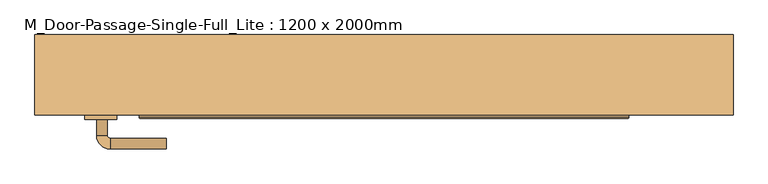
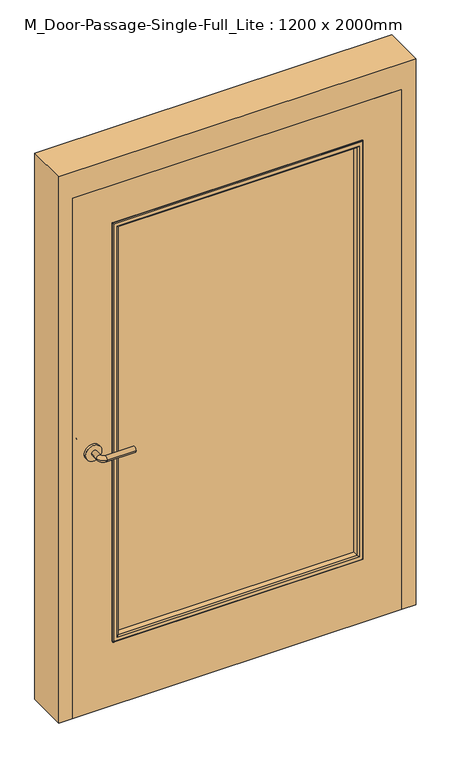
"""IFC4 building model written with IfcOpenShell, lengths in millimetres: door geometry, M_Door-Passage-Single-Full_Lite : 1200 x 2000mm."""

from ifc_helpers import new_model, si_unit, point, frame, frame_2d, origin, place, context, project, spatial, polyline, circle_curve, ellipse_curve, trimmed, segment, composite_curve, outline, extrude, faceted_brep, source, transform, mapped, element, save
from ifc_brep_helpers import plane_surface, cylinder_surface, revolved_surface, advanced_brep


def m_door_passage_single_full_lite_1200_x_2000mm_8ce647b2(model_context):
    return source(origin(), model_context, "Body", "SolidModel", [
        advanced_brep(
        [(-534.990625, -13.35, 1000.0), (-514.990625, -13.35, 1000.0), (-534.990625, 16.65, 1000.0), (-514.990625, 16.65, 1000.0), (-509.990625, 21.65, 1000.0), (-509.990625, 41.65, 1000.0), (-404.990625, 41.65, 1000.0), (-404.990625, 21.65, 1000.0)],
        [
            (0, 1, circle_curve(frame((-524.990625, -13.35, 1000.0), z_axis=(0.0, -1.0, 0.0), x_axis=(1.0, 0.0, 0.0)), 10.0)),
            (1, 0, circle_curve(frame((-524.990625, -13.35, 1000.0), z_axis=(0.0, -1.0, 0.0), x_axis=(1.0, 0.0, 0.0)), 10.0)),
            (0, 2),
            (2, 3, circle_curve(frame((-524.990625, 16.65, 1000.0), z_axis=(0.0, -1.0, 0.0), x_axis=(1.0, 0.0, 0.0)), 10.0)),
            (3, 1),
            (3, 2, circle_curve(frame((-524.990625, 16.65, 1000.0), z_axis=(0.0, -1.0, 0.0), x_axis=(1.0, 0.0, 0.0)), 10.0)),
            (4, 3, circle_curve(frame((-509.990625, 16.65, 1000.0), z_axis=(0.0, 0.0, 1.0), x_axis=(-1.0, 0.0, 0.0)), 5.0)),
            (2, 5, circle_curve(frame((-509.990625, 16.65, 1000.0), z_axis=(0.0, 0.0, -1.0), x_axis=(-1.0, 0.0, 0.0)), 25.0)),
            (5, 4, circle_curve(frame((-509.990625, 31.65, 1000.0), z_axis=(-1.0, 0.0, 0.0), x_axis=(0.0, -1.0, 0.0)), 10.0)),
            (4, 5, circle_curve(frame((-509.990625, 31.65, 1000.0), z_axis=(-1.0, 0.0, 0.0), x_axis=(0.0, -1.0, 0.0)), 10.0)),
            (6, 7, circle_curve(frame((-404.990625, 31.65, 1000.0), z_axis=(1.0, 0.0, 0.0), x_axis=(0.0, -1.0, 0.0)), 10.0)),
            (7, 6, circle_curve(frame((-404.990625, 31.65, 1000.0), z_axis=(1.0, 0.0, 0.0), x_axis=(0.0, -1.0, 0.0)), 10.0)),
            (5, 6),
            (7, 4),
        ],
        [
            plane_surface(frame((-524.990625, -13.35, 1000.0), z_axis=(0.0, -1.0, 0.0), x_axis=(0.0, 0.0, 1.0))),
            cylinder_surface(frame((-524.990625, -13.35, 1000.0), z_axis=(0.0, -1.0, 0.0), x_axis=(1.0, 0.0, 0.0)), 10.0),
            revolved_surface(trimmed(ellipse_curve(frame((-524.990625, 16.65, 1000.0), z_axis=(0.0, -1.0, 0.0), x_axis=(1.0, 0.0, 0.0)), 10.0, 10.0), [point((-534.990625, 16.65, 1000.0))], [point((-514.990625, 16.65, 1000.0))], True, "CARTESIAN"), (-509.990625, 16.65, 1000.0), (0.0, 0.0, -1.0)),
            revolved_surface(trimmed(ellipse_curve(frame((-524.990625, 16.65, 1000.0), z_axis=(0.0, -1.0, 0.0), x_axis=(1.0, 0.0, 0.0)), 10.0, 10.0), [point((-514.990625, 16.65, 1000.0))], [point((-534.990625, 16.65, 1000.0))], True, "CARTESIAN"), (-509.990625, 16.65, 1000.0), (0.0, 0.0, -1.0)),
            plane_surface(frame((-404.990625, 31.65, 1000.0), z_axis=(1.0, 0.0, 0.0), x_axis=(0.0, 0.0, 1.0))),
            cylinder_surface(frame((-509.990625, 31.65, 1000.0), z_axis=(-1.0, 0.0, 0.0), x_axis=(0.0, -1.0, 0.0)), 10.0),
        ],
        [
            (0, [[1, 2]]),
            (1, [[-1, 3, 4, 5]]),
            (1, [[-2, -5, 6, -3]]),
            (2, [[7, -4, 8, 9]]),
            (3, [[-8, -6, -7, 10]]),
            (4, [[11, 12]]),
            (5, [[-9, 13, -12, 14]]),
            (5, [[-10, -14, -11, -13]]),
        ],
    ),
        extrude(outline(composite_curve([segment(trimmed(circle_curve(frame_2d((1000.0, -527.490625)), 30.0), [point((1000.0, -557.490625))], [point((1000.0, -497.490625))], False, "CARTESIAN"), True, "CONTINUOUS"), segment(trimmed(circle_curve(frame_2d((1000.0, -527.490625)), 30.0), [point((1000.0, -497.490625))], [point((1000.0, -557.490625))], False, "CARTESIAN"), True, "CONTINUOUS")], self_intersect=False)), frame((0.0, -21.35, 0.0), z_axis=(0.0, 1.0, 0.0), x_axis=(0.0, 0.0, 1.0)), (0.0, 0.0, 1.0), 8.0),
        advanced_brep(
        [(-534.990625, -74.35, 1000.0), (-514.990625, -74.35, 1000.0), (-514.990625, -104.35, 1000.0), (-534.990625, -104.35, 1000.0), (-509.990625, -109.35, 1000.0), (-509.990625, -129.35, 1000.0), (-404.990625, -129.35, 1000.0), (-404.990625, -109.35, 1000.0)],
        [
            (0, 1, circle_curve(frame((-524.990625, -74.35, 1000.0), z_axis=(0.0, 1.0, 0.0), x_axis=(1.0, 0.0, 0.0)), 10.0)),
            (1, 0, circle_curve(frame((-524.990625, -74.35, 1000.0), z_axis=(0.0, 1.0, 0.0), x_axis=(1.0, 0.0, 0.0)), 10.0)),
            (1, 2),
            (2, 3, circle_curve(frame((-524.990625, -104.35, 1000.0), z_axis=(0.0, 1.0, 0.0), x_axis=(1.0, 0.0, 0.0)), 10.0)),
            (3, 0),
            (3, 2, circle_curve(frame((-524.990625, -104.35, 1000.0), z_axis=(0.0, 1.0, 0.0), x_axis=(1.0, 0.0, 0.0)), 10.0)),
            (4, 5, circle_curve(frame((-509.990625, -119.35, 1000.0), z_axis=(-1.0, 0.0, 0.0), x_axis=(0.0, 1.0, 0.0)), 10.0)),
            (5, 3, circle_curve(frame((-509.990625, -104.35, 1000.0), z_axis=(0.0, 0.0, -1.0), x_axis=(-1.0, 0.0, 0.0)), 25.0)),
            (2, 4, circle_curve(frame((-509.990625, -104.35, 1000.0), z_axis=(0.0, 0.0, 1.0), x_axis=(-1.0, 0.0, 0.0)), 5.0)),
            (5, 4, circle_curve(frame((-509.990625, -119.35, 1000.0), z_axis=(-1.0, 0.0, 0.0), x_axis=(0.0, 1.0, 0.0)), 10.0)),
            (6, 7, circle_curve(frame((-404.990625, -119.35, 1000.0), z_axis=(1.0, 0.0, 0.0), x_axis=(0.0, 1.0, 0.0)), 10.0)),
            (7, 6, circle_curve(frame((-404.990625, -119.35, 1000.0), z_axis=(1.0, 0.0, 0.0), x_axis=(0.0, 1.0, 0.0)), 10.0)),
            (4, 7),
            (6, 5),
        ],
        [
            plane_surface(frame((-524.990625, -74.35, 1000.0), z_axis=(0.0, 1.0, 0.0), x_axis=(0.0, 0.0, 1.0))),
            cylinder_surface(frame((-524.990625, -74.35, 1000.0), z_axis=(0.0, 1.0, 0.0), x_axis=(1.0, 0.0, 0.0)), 10.0),
            revolved_surface(trimmed(ellipse_curve(frame((-524.990625, -104.35, 1000.0), z_axis=(0.0, -1.0, 0.0), x_axis=(1.0, 0.0, 0.0)), 10.0, 10.0), [point((-534.990625, -104.35, 1000.0))], [point((-514.990625, -104.35, 1000.0))], True, "CARTESIAN"), (-509.990625, -104.35, 1000.0), (0.0, 0.0, -1.0)),
            revolved_surface(trimmed(ellipse_curve(frame((-524.990625, -104.35, 1000.0), z_axis=(0.0, -1.0, 0.0), x_axis=(1.0, 0.0, 0.0)), 10.0, 10.0), [point((-514.990625, -104.35, 1000.0))], [point((-534.990625, -104.35, 1000.0))], True, "CARTESIAN"), (-509.990625, -104.35, 1000.0), (0.0, 0.0, -1.0)),
            plane_surface(frame((-404.990625, -119.35, 1000.0), z_axis=(1.0, 0.0, 0.0), x_axis=(0.0, 0.0, 1.0))),
            cylinder_surface(frame((-509.990625, -119.35, 1000.0), z_axis=(-1.0, 0.0, 0.0), x_axis=(0.0, 1.0, 0.0)), 10.0),
        ],
        [
            (0, [[1, 2]]),
            (1, [[3, 4, 5, -2]]),
            (1, [[-5, 6, -3, -1]]),
            (2, [[7, 8, -4, 9]]),
            (3, [[10, -9, -6, -8]]),
            (4, [[11, 12]]),
            (5, [[13, -11, 14, -7]]),
            (5, [[-14, -12, -13, -10]]),
        ],
    ),
        extrude(outline(composite_curve([segment(trimmed(circle_curve(frame_2d((1000.0, -527.490625)), 30.0), [point((1000.0, -557.490625))], [point((1000.0, -497.490625))], False, "CARTESIAN"), True, "CONTINUOUS"), segment(trimmed(circle_curve(frame_2d((1000.0, -527.490625)), 30.0), [point((1000.0, -497.490625))], [point((1000.0, -557.490625))], False, "CARTESIAN"), True, "CONTINUOUS")], self_intersect=False)), frame((0.0, -74.35, 0.0), z_axis=(0.0, 1.0, 0.0), x_axis=(0.0, 0.0, 1.0)), (0.0, 0.0, 1.0), 8.0),
        extrude(outline(polyline([(447.6, -41.35), (447.6, -46.35), (-447.6, -46.35), (-447.6, -41.35), (447.6, -41.35)])), frame((0.0, 0.0, 254.0), z_axis=(0.0, 0.0, 1.0), x_axis=(1.0, 0.0, 0.0)), (0.0, 0.0, 1.0), 1593.6),
        faceted_brep([(600.0, -16.5875, 0.0), (584.125, -16.5875, 0.0), (584.125, 34.4375, 0.0), (600.0, 34.4375, 0.0), (600.0, 83.65, 0.0), (650.0, 83.65, 0.0), (650.0, -66.35, 0.0), (600.0, -66.35, 0.0), (600.0, -66.35, 2000.0), (600.0, -16.5875, 2000.0), (650.0, -66.35, 2100.0), (-650.0, -66.35, 2100.0), (-650.0, -66.35, 0.0), (-600.0, -66.35, 0.0), (-600.0, -66.35, 2000.0), (650.0, 83.65, 2100.0), (600.0, 83.65, 2000.0), (-600.0, 83.65, 2000.0), (-600.0, 83.65, 0.0), (-650.0, 83.65, 0.0), (-650.0, 83.65, 2100.0), (600.0, 34.4375, 2000.0), (584.125, 34.4375, 1984.125), (-584.125, 34.4375, 1984.125), (-584.125, 34.4375, 0.0), (-600.0, 34.4375, 0.0), (-600.0, 34.4375, 2000.0), (584.125, -16.5875, 1984.125), (-600.0, -16.5875, 2000.0), (-600.0, -16.5875, 0.0), (-584.125, -16.5875, 0.0), (-584.125, -16.5875, 1984.125)], [[[0, 1, 2, 3, 4, 5, 6, 7]], [[7, 8, 9, 0]], [[6, 10, 11, 12, 13, 14, 8, 7]], [[5, 15, 10, 6]], [[4, 16, 17, 18, 19, 20, 15, 5]], [[3, 21, 16, 4]], [[2, 22, 23, 24, 25, 26, 21, 3]], [[1, 27, 22, 2]], [[0, 9, 28, 29, 30, 31, 27, 1]], [[8, 14, 28, 9]], [[16, 21, 26, 17]], [[22, 27, 31, 23]], [[12, 19, 18, 25, 24, 30, 29, 13]], [[13, 29, 28, 14]], [[11, 20, 19, 12]], [[17, 26, 25, 18]], [[23, 31, 30, 24]], [[15, 20, 11, 10]]]),
        extrude(outline(polyline([(2000.0, -600.0), (0.0, -600.0), (0.0, 600.0), (2000.0, 600.0), (2000.0, -600.0)]), holes=[polyline([(1847.6, -447.6), (1847.6, 447.6), (254.0, 447.6), (254.0, -447.6), (1847.6, -447.6)])]), frame((0.0, -66.35, 0.0), z_axis=(0.0, 1.0, 0.0), x_axis=(0.0, 0.0, 1.0)), (0.0, 0.0, 1.0), 45.0),
        advanced_brep(
        [(-447.6, -46.35, 1847.6), (-447.6, -46.35, 254.0), (-447.6, -66.35, 254.0), (-447.6, -66.35, 1847.6), (-435.6, -67.35, 1835.6), (-435.6, -67.35, 266.0), (-435.6, -46.35, 266.0), (-435.6, -46.35, 1835.6), (-440.6, -72.35, 1840.6), (-440.6, -72.35, 261.0), (-455.6, -70.35, 1855.6), (-455.6, -70.35, 246.0), (-453.6, -72.35, 248.0), (-453.6, -72.35, 1853.6), (-455.6, -66.35, 1855.6), (-455.6, -66.35, 246.0), (447.6, -46.35, 254.0), (447.6, -66.35, 254.0), (435.6, -67.35, 266.0), (435.6, -46.35, 266.0), (440.6, -72.35, 261.0), (455.6, -70.35, 246.0), (453.6, -72.35, 248.0), (455.6, -66.35, 246.0), (447.6, -46.35, 1847.6), (447.6, -66.35, 1847.6), (435.6, -67.35, 1835.6), (435.6, -46.35, 1835.6), (440.6, -72.35, 1840.6), (455.6, -70.35, 1855.6), (453.6, -72.35, 1853.6), (455.6, -66.35, 1855.6)],
        [
            (0, 1),
            (1, 2),
            (2, 3),
            (3, 0),
            (4, 5),
            (5, 6),
            (6, 7),
            (7, 4),
            (8, 9),
            (9, 5, ellipse_curve(frame((-440.6, -67.35, 261.0), z_axis=(-0.7071067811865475, 0.0, 0.7071067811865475), x_axis=(0.7071067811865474, 0.0, 0.7071067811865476)), 7.0710678, 5.0)),
            (4, 8, ellipse_curve(frame((-440.6, -67.35, 1840.6), z_axis=(-0.7071067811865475, 0.0, -0.7071067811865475), x_axis=(-0.7071067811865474, 0.0, 0.7071067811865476)), 7.0710678, 5.0)),
            (10, 11),
            (11, 12, ellipse_curve(frame((-453.6, -70.35, 248.0), z_axis=(-0.7071067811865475, 0.0, 0.7071067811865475), x_axis=(0.7071067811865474, 0.0, 0.7071067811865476)), 2.8284271, 2.0)),
            (12, 13),
            (13, 10, ellipse_curve(frame((-453.6, -70.35, 1853.6), z_axis=(-0.7071067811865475, 0.0, -0.7071067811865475), x_axis=(-0.7071067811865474, 0.0, 0.7071067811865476)), 2.8284271, 2.0)),
            (14, 15),
            (15, 11),
            (10, 14),
            (1, 16),
            (16, 17),
            (17, 2),
            (5, 18),
            (18, 19),
            (19, 6),
            (9, 20),
            (20, 18, ellipse_curve(frame((440.6, -67.35, 261.0), z_axis=(-0.7071067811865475, 0.0, -0.7071067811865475), x_axis=(-0.7071067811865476, 0.0, 0.7071067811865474)), 7.0710678, 5.0)),
            (11, 21),
            (21, 22, ellipse_curve(frame((453.6, -70.35, 248.0), z_axis=(-0.7071067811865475, 0.0, -0.7071067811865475), x_axis=(-0.7071067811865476, 0.0, 0.7071067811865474)), 2.8284271, 2.0)),
            (22, 12),
            (15, 23),
            (23, 21),
            (16, 24),
            (24, 25),
            (25, 17),
            (18, 26),
            (26, 27),
            (27, 19),
            (20, 28),
            (28, 26, ellipse_curve(frame((440.6, -67.35, 1840.6), z_axis=(0.7071067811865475, 0.0, -0.7071067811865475), x_axis=(-0.7071067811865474, 0.0, -0.7071067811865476)), 7.0710678, 5.0)),
            (21, 29),
            (29, 30, ellipse_curve(frame((453.6, -70.35, 1853.6), z_axis=(0.7071067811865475, 0.0, -0.7071067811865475), x_axis=(-0.7071067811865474, 0.0, -0.7071067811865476)), 2.8284271, 2.0)),
            (30, 22),
            (23, 31),
            (31, 29),
            (14, 31),
            (25, 3),
            (24, 0),
            (27, 7),
            (26, 4),
            (28, 8),
            (30, 13),
            (29, 10),
        ],
        [
            plane_surface(frame((-447.6, -66.35, 1847.6), z_axis=(-1.0, 0.0, 0.0), x_axis=(0.0, 0.0, -1.0))),
            plane_surface(frame((-435.6, -46.35, 1835.6), z_axis=(1.0, 0.0, 0.0), x_axis=(0.0, 0.0, -1.0))),
            cylinder_surface(frame((-440.6, -67.35, 1847.6), z_axis=(0.0, 0.0, 1.0), x_axis=(-1.0, 0.0, 0.0)), 5.0),
            cylinder_surface(frame((-453.6, -70.35, 1847.6), z_axis=(0.0, 0.0, 1.0), x_axis=(-1.0, 0.0, 0.0)), 2.0),
            plane_surface(frame((-455.6, -70.35, 1855.6), z_axis=(-1.0, 0.0, 0.0), x_axis=(0.0, 0.0, -1.0))),
            plane_surface(frame((-447.6, -66.35, 254.0), z_axis=(0.0, 0.0, -1.0), x_axis=(1.0, 0.0, 0.0))),
            plane_surface(frame((-435.6, -46.35, 266.0), z_axis=(0.0, 0.0, 1.0), x_axis=(1.0, 0.0, 0.0))),
            cylinder_surface(frame((-447.6, -67.35, 261.0), z_axis=(-1.0, 0.0, 0.0), x_axis=(0.0, 0.0, -1.0)), 5.0),
            cylinder_surface(frame((-447.6, -70.35, 248.0), z_axis=(-1.0, 0.0, 0.0), x_axis=(0.0, 0.0, -1.0)), 2.0),
            plane_surface(frame((-455.6, -70.35, 246.0), z_axis=(0.0, 0.0, -1.0), x_axis=(1.0, 0.0, 0.0))),
            plane_surface(frame((447.6, -66.35, 254.0), z_axis=(1.0, 0.0, 0.0), x_axis=(0.0, 0.0, 1.0))),
            plane_surface(frame((435.6, -46.35, 266.0), z_axis=(-1.0, 0.0, 0.0), x_axis=(0.0, 0.0, 1.0))),
            cylinder_surface(frame((440.6, -67.35, 254.0), z_axis=(0.0, 0.0, -1.0), x_axis=(1.0, 0.0, 0.0)), 5.0),
            cylinder_surface(frame((453.6, -70.35, 254.0), z_axis=(0.0, 0.0, -1.0), x_axis=(1.0, 0.0, 0.0)), 2.0),
            plane_surface(frame((455.6, -70.35, 246.0), z_axis=(1.0, 0.0, 0.0), x_axis=(0.0, 0.0, 1.0))),
            plane_surface(frame((455.6, -66.35, 1855.6), z_axis=(0.0, 1.0, 0.0), x_axis=(-1.0, 0.0, 0.0))),
            plane_surface(frame((447.6, -66.35, 1847.6), z_axis=(0.0, 0.0, 1.0), x_axis=(-1.0, 0.0, 0.0))),
            plane_surface(frame((447.6, -46.35, 1847.6), z_axis=(0.0, 1.0, 0.0), x_axis=(-1.0, 0.0, 0.0))),
            plane_surface(frame((435.6, -46.35, 1835.6), z_axis=(0.0, 0.0, -1.0), x_axis=(-1.0, 0.0, 0.0))),
            cylinder_surface(frame((447.6, -67.35, 1840.6), z_axis=(1.0, 0.0, 0.0), x_axis=(0.0, 0.0, 1.0)), 5.0),
            plane_surface(frame((440.6, -72.35, 1840.6), z_axis=(0.0, -1.0, 0.0), x_axis=(-1.0, 0.0, 0.0))),
            cylinder_surface(frame((447.6, -70.35, 1853.6), z_axis=(1.0, 0.0, 0.0), x_axis=(0.0, 0.0, 1.0)), 2.0),
            plane_surface(frame((455.6, -70.35, 1855.6), z_axis=(0.0, 0.0, 1.0), x_axis=(-1.0, 0.0, 0.0))),
        ],
        [
            (0, [[1, 2, 3, 4]]),
            (1, [[5, 6, 7, 8]]),
            (2, [[9, 10, -5, 11]]),
            (3, [[12, 13, 14, 15]]),
            (4, [[16, 17, -12, 18]]),
            (5, [[19, 20, 21, -2]]),
            (6, [[22, 23, 24, -6]]),
            (7, [[25, 26, -22, -10]]),
            (8, [[27, 28, 29, -13]]),
            (9, [[30, 31, -27, -17]]),
            (10, [[32, 33, 34, -20]]),
            (11, [[35, 36, 37, -23]]),
            (12, [[38, 39, -35, -26]]),
            (13, [[40, 41, 42, -28]]),
            (14, [[43, 44, -40, -31]]),
            (15, [[-16, 45, -43, -30], [-3, -21, -34, 46]]),
            (16, [[47, -4, -46, -33]]),
            (17, [[-1, -47, -32, -19], [-7, -24, -37, 48]]),
            (18, [[49, -8, -48, -36]]),
            (19, [[50, -11, -49, -39]]),
            (20, [[-14, -29, -42, 51], [-9, -50, -38, -25]]),
            (21, [[52, -15, -51, -41]]),
            (22, [[-45, -18, -52, -44]]),
        ],
    ),
        advanced_brep(
        [(-447.6, -41.35, 254.0), (-447.6, -41.35, 1847.6), (-447.6, -21.35, 1847.6), (-447.6, -21.35, 254.0), (-435.6, -20.35, 266.0), (-435.6, -20.35, 1835.6), (-435.6, -41.35, 1835.6), (-435.6, -41.35, 266.0), (-440.6, -15.35, 261.0), (-440.6, -15.35, 1840.6), (-455.6, -17.35, 246.0), (-455.6, -17.35, 1855.6), (-453.6, -15.35, 1853.6), (-453.6, -15.35, 248.0), (-455.6, -21.35, 246.0), (-455.6, -21.35, 1855.6), (447.6, -41.35, 1847.6), (447.6, -21.35, 1847.6), (435.6, -20.35, 1835.6), (435.6, -41.35, 1835.6), (440.6, -15.35, 1840.6), (455.6, -17.35, 1855.6), (453.6, -15.35, 1853.6), (455.6, -21.35, 1855.6), (447.6, -41.35, 254.0), (447.6, -21.35, 254.0), (435.6, -20.35, 266.0), (435.6, -41.35, 266.0), (440.6, -15.35, 261.0), (455.6, -17.35, 246.0), (453.6, -15.35, 248.0), (455.6, -21.35, 246.0)],
        [
            (0, 1),
            (1, 2),
            (2, 3),
            (3, 0),
            (4, 5),
            (5, 6),
            (6, 7),
            (7, 4),
            (8, 9),
            (9, 5, ellipse_curve(frame((-440.6, -20.35, 1840.6), z_axis=(-0.7071067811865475, 0.0, -0.7071067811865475), x_axis=(0.7071067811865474, 0.0, -0.7071067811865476)), 7.0710678, 5.0)),
            (4, 8, ellipse_curve(frame((-440.6, -20.35, 261.0), z_axis=(-0.7071067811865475, 0.0, 0.7071067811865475), x_axis=(-0.7071067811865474, 0.0, -0.7071067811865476)), 7.0710678, 5.0)),
            (10, 11),
            (11, 12, ellipse_curve(frame((-453.6, -17.35, 1853.6), z_axis=(-0.7071067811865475, 0.0, -0.7071067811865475), x_axis=(0.7071067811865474, 0.0, -0.7071067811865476)), 2.8284271, 2.0)),
            (12, 13),
            (13, 10, ellipse_curve(frame((-453.6, -17.35, 248.0), z_axis=(-0.7071067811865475, 0.0, 0.7071067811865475), x_axis=(-0.7071067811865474, 0.0, -0.7071067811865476)), 2.8284271, 2.0)),
            (14, 15),
            (15, 11),
            (10, 14),
            (1, 16),
            (16, 17),
            (17, 2),
            (5, 18),
            (18, 19),
            (19, 6),
            (9, 20),
            (20, 18, ellipse_curve(frame((440.6, -20.35, 1840.6), z_axis=(-0.7071067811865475, 0.0, 0.7071067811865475), x_axis=(-0.7071067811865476, 0.0, -0.7071067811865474)), 7.0710678, 5.0)),
            (11, 21),
            (21, 22, ellipse_curve(frame((453.6, -17.35, 1853.6), z_axis=(-0.7071067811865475, 0.0, 0.7071067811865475), x_axis=(-0.7071067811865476, 0.0, -0.7071067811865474)), 2.8284271, 2.0)),
            (22, 12),
            (15, 23),
            (23, 21),
            (16, 24),
            (24, 25),
            (25, 17),
            (18, 26),
            (26, 27),
            (27, 19),
            (20, 28),
            (28, 26, ellipse_curve(frame((440.6, -20.35, 261.0), z_axis=(0.7071067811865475, 0.0, 0.7071067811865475), x_axis=(-0.7071067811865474, 0.0, 0.7071067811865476)), 7.0710678, 5.0)),
            (21, 29),
            (29, 30, ellipse_curve(frame((453.6, -17.35, 248.0), z_axis=(0.7071067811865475, 0.0, 0.7071067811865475), x_axis=(-0.7071067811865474, 0.0, 0.7071067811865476)), 2.8284271, 2.0)),
            (30, 22),
            (23, 31),
            (31, 29),
            (14, 31),
            (25, 3),
            (24, 0),
            (27, 7),
            (26, 4),
            (28, 8),
            (30, 13),
            (29, 10),
        ],
        [
            plane_surface(frame((-447.6, -21.35, 254.0), z_axis=(-1.0, 0.0, 0.0), x_axis=(0.0, 0.0, 1.0))),
            plane_surface(frame((-435.6, -41.35, 266.0), z_axis=(1.0, 0.0, 0.0), x_axis=(0.0, 0.0, 1.0))),
            cylinder_surface(frame((-440.6, -20.35, 254.0), z_axis=(0.0, 0.0, -1.0), x_axis=(-1.0, 0.0, 0.0)), 5.0),
            cylinder_surface(frame((-453.6, -17.35, 254.0), z_axis=(0.0, 0.0, -1.0), x_axis=(-1.0, 0.0, 0.0)), 2.0),
            plane_surface(frame((-455.6, -17.35, 246.0), z_axis=(-1.0, 0.0, 0.0), x_axis=(0.0, 0.0, 1.0))),
            plane_surface(frame((-447.6, -21.35, 1847.6), z_axis=(0.0, 0.0, 1.0), x_axis=(1.0, 0.0, 0.0))),
            plane_surface(frame((-435.6, -41.35, 1835.6), z_axis=(0.0, 0.0, -1.0), x_axis=(1.0, 0.0, 0.0))),
            cylinder_surface(frame((-447.6, -20.35, 1840.6), z_axis=(-1.0, 0.0, 0.0), x_axis=(0.0, 0.0, 1.0)), 5.0),
            cylinder_surface(frame((-447.6, -17.35, 1853.6), z_axis=(-1.0, 0.0, 0.0), x_axis=(0.0, 0.0, 1.0)), 2.0),
            plane_surface(frame((-455.6, -17.35, 1855.6), z_axis=(0.0, 0.0, 1.0), x_axis=(1.0, 0.0, 0.0))),
            plane_surface(frame((447.6, -21.35, 1847.6), z_axis=(1.0, 0.0, 0.0), x_axis=(0.0, 0.0, -1.0))),
            plane_surface(frame((435.6, -41.35, 1835.6), z_axis=(-1.0, 0.0, 0.0), x_axis=(0.0, 0.0, -1.0))),
            cylinder_surface(frame((440.6, -20.35, 1847.6), z_axis=(0.0, 0.0, 1.0), x_axis=(1.0, 0.0, 0.0)), 5.0),
            cylinder_surface(frame((453.6, -17.35, 1847.6), z_axis=(0.0, 0.0, 1.0), x_axis=(1.0, 0.0, 0.0)), 2.0),
            plane_surface(frame((455.6, -17.35, 1855.6), z_axis=(1.0, 0.0, 0.0), x_axis=(0.0, 0.0, -1.0))),
            plane_surface(frame((455.6, -21.35, 246.0), z_axis=(0.0, -1.0, 0.0), x_axis=(-1.0, 0.0, 0.0))),
            plane_surface(frame((447.6, -21.35, 254.0), z_axis=(0.0, 0.0, -1.0), x_axis=(-1.0, 0.0, 0.0))),
            plane_surface(frame((447.6, -41.35, 254.0), z_axis=(0.0, -1.0, 0.0), x_axis=(-1.0, 0.0, 0.0))),
            plane_surface(frame((435.6, -41.35, 266.0), z_axis=(0.0, 0.0, 1.0), x_axis=(-1.0, 0.0, 0.0))),
            cylinder_surface(frame((447.6, -20.35, 261.0), z_axis=(1.0, 0.0, 0.0), x_axis=(0.0, 0.0, -1.0)), 5.0),
            plane_surface(frame((440.6, -15.35, 261.0), z_axis=(0.0, 1.0, 0.0), x_axis=(-1.0, 0.0, 0.0))),
            cylinder_surface(frame((447.6, -17.35, 248.0), z_axis=(1.0, 0.0, 0.0), x_axis=(0.0, 0.0, -1.0)), 2.0),
            plane_surface(frame((455.6, -17.35, 246.0), z_axis=(0.0, 0.0, -1.0), x_axis=(-1.0, 0.0, 0.0))),
        ],
        [
            (0, [[1, 2, 3, 4]]),
            (1, [[5, 6, 7, 8]]),
            (2, [[9, 10, -5, 11]]),
            (3, [[12, 13, 14, 15]]),
            (4, [[16, 17, -12, 18]]),
            (5, [[19, 20, 21, -2]]),
            (6, [[22, 23, 24, -6]]),
            (7, [[25, 26, -22, -10]]),
            (8, [[27, 28, 29, -13]]),
            (9, [[30, 31, -27, -17]]),
            (10, [[32, 33, 34, -20]]),
            (11, [[35, 36, 37, -23]]),
            (12, [[38, 39, -35, -26]]),
            (13, [[40, 41, 42, -28]]),
            (14, [[43, 44, -40, -31]]),
            (15, [[-16, 45, -43, -30], [-3, -21, -34, 46]]),
            (16, [[47, -4, -46, -33]]),
            (17, [[-1, -47, -32, -19], [-7, -24, -37, 48]]),
            (18, [[49, -8, -48, -36]]),
            (19, [[50, -11, -49, -39]]),
            (20, [[-14, -29, -42, 51], [-9, -50, -38, -25]]),
            (21, [[52, -15, -51, -41]]),
            (22, [[-45, -18, -52, -44]]),
        ],
    ),
    ])


if __name__ == "__main__":
    model = new_model("IFC4")
    model_context = context("Model", 3, world=origin())
    ifc_project = project(units=[si_unit("LENGTHUNIT", "METRE", prefix="MILLI")], contexts=[model_context])
    site = spatial("IfcSite", under=ifc_project)
    building = spatial("IfcBuilding", under=site)
    placement = place(None, origin())
    m_door_passage_single_full_lite_1200_x_2000mm_shape = m_door_passage_single_full_lite_1200_x_2000mm_8ce647b2(model_context)
    element("IfcDoor", 1, ObjectType="M_Door-Passage-Single-Full_Lite : 1200 x 2000mm", at=placement, inside=building, context=model_context, shape_type="MappedRepresentation", body=[
        mapped(m_door_passage_single_full_lite_1200_x_2000mm_shape, transform((0.0, 0.0, 0.0), x_axis=(1.0, 0.0, 0.0), y_axis=(0.0, 1.0, 0.0), z_axis=(0.0, 0.0, 1.0))),
    ])
    save(model, "model.ifc")
